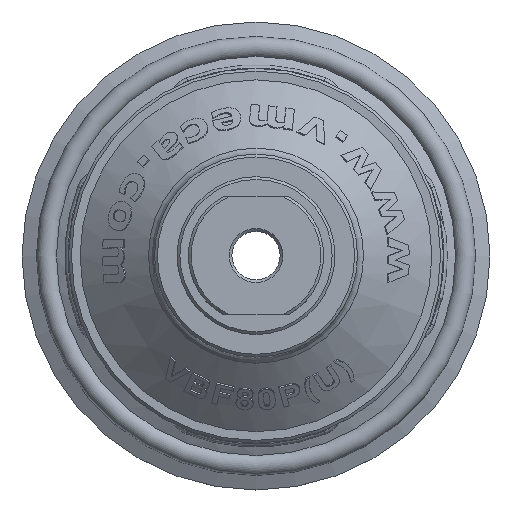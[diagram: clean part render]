
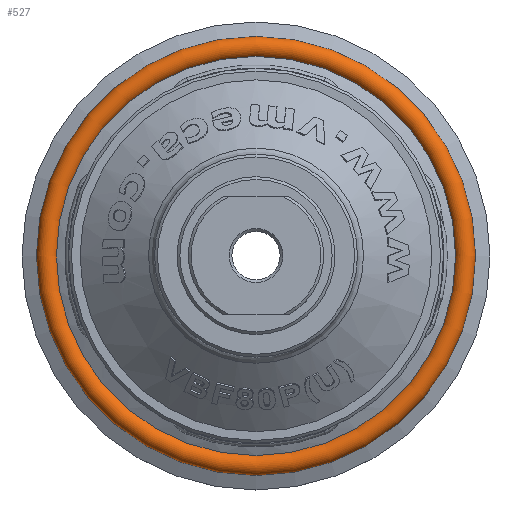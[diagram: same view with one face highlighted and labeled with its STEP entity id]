
A CAD part, top view. The second image highlights one B-rep face of the part: STEP entity #527.
In plain terms, the highlighted toroidal (fillet/blend) face has major radius 37.069 mm and minor radius 1.871 mm.
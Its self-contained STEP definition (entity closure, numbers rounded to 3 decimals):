
#527 = ADVANCED_FACE( '', ( #1215, #1216 ), #1217, .T. );
#1215 = FACE_OUTER_BOUND( '', #5545, .T. );
#1216 = FACE_OUTER_BOUND( '', #5546, .T. );
#1217 = TOROIDAL_SURFACE( '', #5547, 37.069, 1.871 );
#5545 = EDGE_LOOP( '', ( #11186 ) );
#5546 = EDGE_LOOP( '', ( #11187 ) );
#5547 = AXIS2_PLACEMENT_3D( '', #11188, #11189, #11190 );
#11186 = ORIENTED_EDGE( '', *, *, #12707, .F. );
#11187 = ORIENTED_EDGE( '', *, *, #12351, .T. );
#11188 = CARTESIAN_POINT( '', ( 0., 0., -20.793 ) );
#11189 = DIRECTION( '', ( 0., 0., 1. ) );
#11190 = DIRECTION( '', ( 1., 0., 0. ) );
#12351 = EDGE_CURVE( '', #13308, #13308, #13309, .T. );
#12707 = EDGE_CURVE( '', #13882, #13882, #13883, .T. );
#13308 = VERTEX_POINT( '', #15464 );
#13309 = CIRCLE( '', #15465, 38.736 );
#13882 = VERTEX_POINT( '', #18078 );
#13883 = CIRCLE( '', #18079, 35.402 );
#15464 = CARTESIAN_POINT( '', ( 38.736, 0., -21.642 ) );
#15465 = AXIS2_PLACEMENT_3D( '', #21283, #21284, #21285 );
#18078 = CARTESIAN_POINT( '', ( 35.402, 0., -19.943 ) );
#18079 = AXIS2_PLACEMENT_3D( '', #21410, #21411, #21412 );
#21283 = CARTESIAN_POINT( '', ( 0., 0., -21.642 ) );
#21284 = DIRECTION( '', ( 0., 0., 1. ) );
#21285 = DIRECTION( '', ( 1., 0., 0. ) );
#21410 = CARTESIAN_POINT( '', ( 0., 0., -19.943 ) );
#21411 = DIRECTION( '', ( 0., 0., 1. ) );
#21412 = DIRECTION( '', ( 1., 0., 0. ) );
